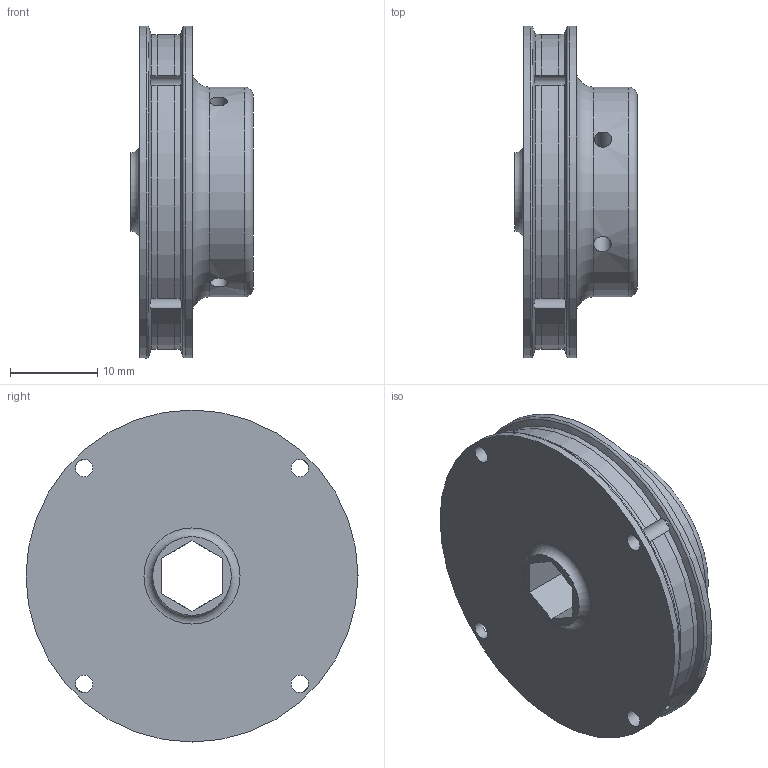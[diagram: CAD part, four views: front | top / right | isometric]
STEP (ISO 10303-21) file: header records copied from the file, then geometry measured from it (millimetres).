
FILE_DESCRIPTION( ('This file contains a STEP AP42 implementation' ,'as created by ZW3D STEP Interface translator.') ,'2;1' );
FILE_NAME( 'Pulley4.stp' ,'24 9 3.1334 3', (''), ('ZWCAD Software Co.'), 'Version 1.0', 'ZW3D to STEP translator', '' );
FILE_SCHEMA(('AUTOMOTIVE_DESIGN { 1 0 10303 214 1 1 1 1 }'));
Length unit declared in the file: millimetre
Products named in the file (2): 0; Pulley4
Bounding box: 14 x 38 x 38 mm (x, y, z)
Volume: 8914.5 mm3; surface area: 4070.1 mm2
Topology: 1 solids, 1 shells, 44 faces, 131 edges, 85 vertices
Faces by surface type: cylinder 21, plane 12, torus 5, bspline 4, cone 2
Full cylindrical faces by diameter (mm): 2 x8, 24 x1, 38 x2
Entity records: 1970 total; most frequent: CARTESIAN_POINT 677, ORIENTED_EDGE 260, DIRECTION 237, EDGE_CURVE 130, AXIS2_PLACEMENT_3D 87, VERTEX_POINT 84, EDGE_LOOP 66, VECTOR 63
